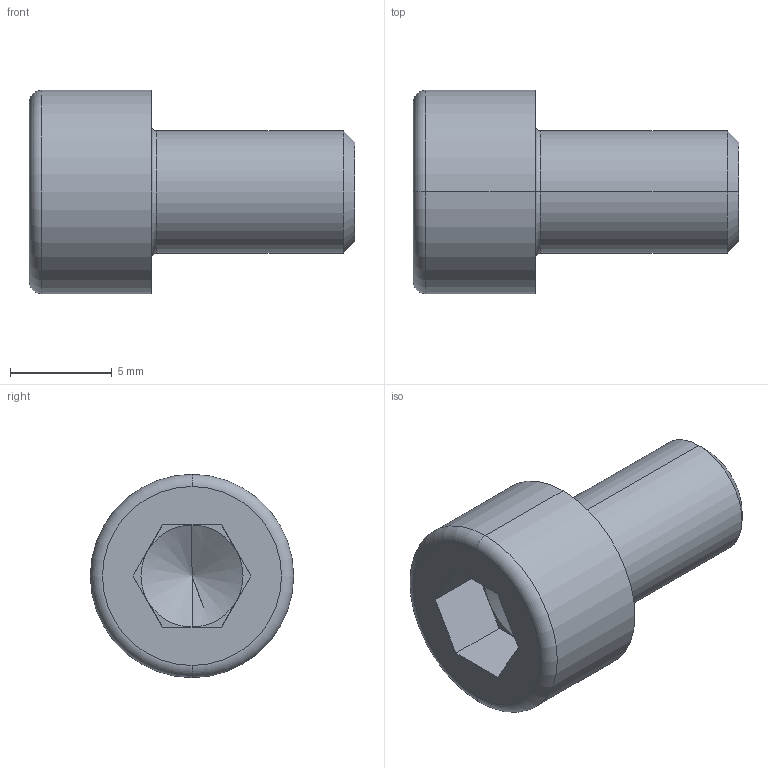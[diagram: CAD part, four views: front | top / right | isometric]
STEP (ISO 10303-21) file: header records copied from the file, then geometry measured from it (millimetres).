
FILE_DESCRIPTION (( 'STEP AP203' ), '1' );
FILE_NAME ('N631246_3_Zylinderschraube.STEP', '2019-07-12T09:07:40', ( '' ), ( '' ), 'SwSTEP 2.0', 'SolidWorks 2017', '' );
FILE_SCHEMA (( 'CONFIG_CONTROL_DESIGN' ));
Length unit declared in the file: millimetre
Products named in the file (1): N631246_3_Zylinderschraube
Bounding box: 16 x 10 x 10 mm (x, y, z)
Volume: 674.1 mm3; surface area: 572.5 mm2
Topology: 1 solids, 1 shells, 27 faces, 58 edges, 33 vertices
Faces by surface type: plane 15, cone 4, torus 4, cylinder 4
Entity records: 787 total; most frequent: DIRECTION 136, CARTESIAN_POINT 117, ORIENTED_EDGE 112, EDGE_CURVE 56, AXIS2_PLACEMENT_3D 52, VERTEX_POINT 33, VECTOR 32, LINE 32
